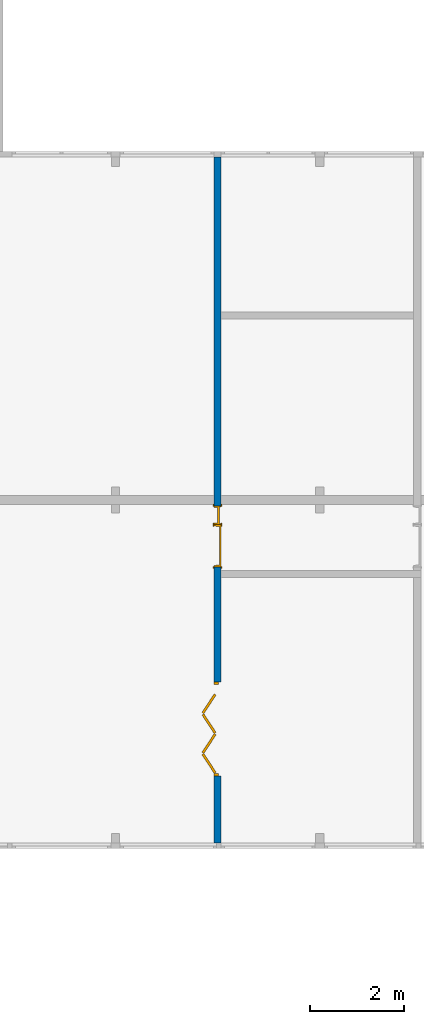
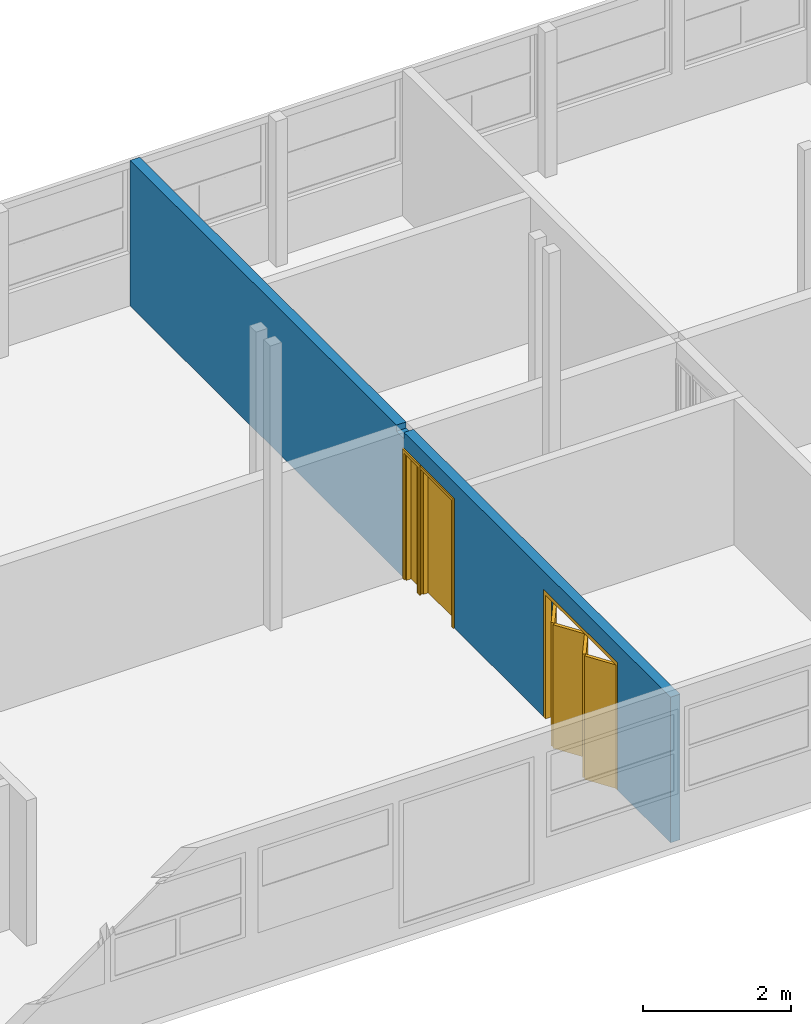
# One storey, part 21 of 48: 3 doors, 1 wall, 3 openings.
"""IFC2X3 building model written with IfcOpenShell, lengths in millimetres."""

from ifc_helpers import new_model, entity, si_unit, converted_unit, derived_unit, money_unit, direction, frame, origin_with_axes, place, context, subcontext, project, spatial, faceted_brep, source, transform, mapped, material, type_object, element, fill, save


model = new_model("IFC2X3")

# Units and contexts
model_context = context("Model", 3, precision=0.01, world=origin_with_axes(), true_north=direction((0.0, 1.0)))
body_context = subcontext(model_context, "Body", "Model", "MODEL_VIEW")
ifc_project = project(units=[si_unit("LENGTHUNIT", "METRE", prefix="MILLI"), si_unit("AREAUNIT", "SQUARE_METRE"), si_unit("VOLUMEUNIT", "CUBIC_METRE"), converted_unit("PLANEANGLEUNIT", "DEGREE", entity("IfcPlaneAngleMeasure", 0.0174532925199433), si_unit("PLANEANGLEUNIT", "RADIAN"), dimensions=[0, 0, 0, 0, 0, 0, 0]), money_unit("USD"), converted_unit("TIMEUNIT", "Year", entity("IfcTimeMeasure", 31557600.0), si_unit("TIMEUNIT", "SECOND"), dimensions=[0, 0, 1, 0, 0, 0, 0]), si_unit("MASSUNIT", "GRAM", prefix="KILO"), si_unit("THERMODYNAMICTEMPERATUREUNIT", "DEGREE_CELSIUS"), si_unit("LUMINOUSINTENSITYUNIT", "LUMEN"), si_unit("ENERGYUNIT", "JOULE", prefix="MEGA"), derived_unit("THERMALCONDUCTANCEUNIT", [(si_unit("POWERUNIT", "WATT"), 1), (si_unit("LENGTHUNIT", "METRE"), -1), (si_unit("THERMODYNAMICTEMPERATUREUNIT", "KELVIN"), -1)]), derived_unit("SPECIFICHEATCAPACITYUNIT", [(si_unit("ENERGYUNIT", "JOULE"), 1), (si_unit("MASSUNIT", "GRAM", prefix="KILO"), -1), (si_unit("THERMODYNAMICTEMPERATUREUNIT", "KELVIN"), -1)]), derived_unit("MASSDENSITYUNIT", [(si_unit("MASSUNIT", "GRAM", prefix="KILO"), 1), (si_unit("VOLUMEUNIT", "CUBIC_METRE"), -1)])], contexts=[model_context])

# Site, building, storey
site_placement = place(None, origin_with_axes())
site = spatial("IfcSite", under=ifc_project, at=site_placement, Name="Site", CompositionType="ELEMENT")
building_placement = place(site_placement, origin_with_axes())
building = spatial("IfcBuilding", under=site, at=building_placement, Name="Building", CompositionType="ELEMENT")
storey_placement = place(building_placement, frame((0.0, 0.0, 3300.0), z_axis=(0.0, 0.0, 1.0), x_axis=(1.0, 0.0, 0.0)))
storey = spatial("IfcBuildingStorey", under=building, at=storey_placement, Name="1 ETG", CompositionType="ELEMENT", Elevation=3300.0)

# Wall, openings, doors
ifc_material = material(Name="GENERIC - INTERNAL FILLER")
wall_type = type_object("IfcWallType", Name="GENERIC - INTERNAL FILLER 150", PredefinedType="NOTDEFINED")
wall_placement = place(storey_placement, frame((47250.00000000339, 7199.830298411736, 0.0), z_axis=(0.0, 0.0, 1.0), x_axis=(0.0, 1.0, 0.0)))
wall = element("IfcWall", 1, at=wall_placement, inside=storey, type_object=wall_type, material=ifc_material, Name="SW - 001", context=body_context, shape_type="Brep", body=[
    faceted_brep([(1426.29042618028, 0.0, 0.0), (1426.29042618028, 0.0, 2100.0), (3426.29042618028, 0.0, 2100.0), (3426.29042618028, 0.0, 0.0), (5875.433155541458, 0.0, 0.0), (5875.433155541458, 0.0, 2100.0), (7175.433155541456, 0.0, 2100.0), (7175.433155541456, 0.0, 0.0), (14600.08709267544, 0.0, 0.0), (14600.08709267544, 0.0, 2400.0), (7400.169701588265, 0.0, 2400.0), (7400.169701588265, 0.0, 2300.000000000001), (7200.169701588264, 0.0, 2300.000000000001), (7200.169701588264, 0.0, 2400.0), (0.0, 0.0, 2400.0), (0.0, 0.0, 0.0), (1426.29042618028, 149.9999999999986, 0.0), (1426.29042618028, 149.9999999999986, 2100.0), (3426.29042618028, 149.9999999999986, 2100.0), (3426.29042618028, 149.9999999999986, 0.0), (5875.433155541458, 149.9999999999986, 0.0), (5875.433155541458, 149.9999999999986, 2100.0), (7175.433155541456, 149.9999999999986, 2100.0), (7175.433155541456, 149.9999999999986, 0.0), (14600.08734315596, 149.9999999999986, 0.0), (14600.08734315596, 149.9999999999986, 2400.0), (7400.169701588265, 149.9999999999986, 2400.0), (7400.169701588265, 149.9999999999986, 2300.000000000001), (7200.169701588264, 149.9999999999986, 2300.000000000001), (7200.169701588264, 149.9999999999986, 2400.0), (-0.0002653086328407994, 149.9999999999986, 2400.0), (-0.0002653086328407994, 149.9999999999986, 0.0)], [[[0, 1, 2, 3, 4, 5, 6, 7, 8, 9, 10, 11, 12, 13, 14, 15]], [[1, 0, 16, 17]], [[2, 1, 17, 18]], [[3, 2, 18, 19]], [[3, 19, 20, 4]], [[20, 21, 5, 4]], [[6, 5, 21, 22]], [[6, 22, 23, 7]], [[23, 24, 8, 7]], [[25, 9, 8, 24]], [[9, 25, 26, 10]], [[26, 27, 11, 10]], [[27, 28, 12, 11]], [[12, 28, 29, 13]], [[30, 14, 13, 29]], [[15, 14, 30, 31]], [[16, 0, 15, 31]], [[17, 16, 31, 30, 29, 28, 27, 26, 25, 24, 23, 22, 21, 20, 19, 18]]]),
])
opening_1_placement = place(wall_placement, frame((6325.433155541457, 0.0, 0.0), z_axis=(0.0, 0.0, 1.0), x_axis=(1.0, 0.0, 0.0)))
opening_1 = element("IfcOpeningElement", 2, at=opening_1_placement, cuts=wall, Name="DOO - 002", context=body_context, shape_type="Brep", body=[
    faceted_brep([(449.9999999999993, -0.9999999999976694, 0.0), (449.9999999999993, -0.9999999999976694, 2100.0), (-449.9999999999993, -0.9999999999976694, 2100.0), (-449.9999999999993, -0.9999999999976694, 0.0), (487.0000000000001, -0.9999999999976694, 0.0), (487.0000000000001, -0.9999999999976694, 2137.0), (-487.0000000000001, -0.9999999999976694, 2137.0), (-487.0000000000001, -0.9999999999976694, 0.0), (449.9999999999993, 0.0, 0.0), (-449.9999999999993, 0.0, 0.0), (-449.9999999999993, 149.9999999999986, 0.0), (-449.9999999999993, 150.9999999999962, 0.0), (449.9999999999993, 150.9999999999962, 0.0), (449.9999999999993, 149.9999999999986, 0.0), (487.0000000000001, 0.0, 0.0), (487.0000000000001, 0.0, 2137.0), (-487.0000000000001, 0.0, 2137.0), (-487.0000000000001, 0.0, 0.0), (-449.9999999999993, 0.0, 2100.0), (-449.9999999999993, 149.9999999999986, 2100.0), (-487.0000000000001, 149.9999999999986, 0.0), (-487.0000000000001, 150.9999999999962, 0.0), (-487.0000000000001, 150.9999999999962, 2137.0), (487.0000000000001, 150.9999999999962, 2137.0), (487.0000000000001, 150.9999999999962, 0.0), (487.0000000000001, 149.9999999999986, 0.0), (449.9999999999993, 0.0, 2100.0), (449.9999999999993, 149.9999999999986, 2100.0), (487.0000000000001, 149.9999999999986, 2137.0), (-487.0000000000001, 149.9999999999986, 2137.0)], [[[0, 1, 2, 3]], [[2, 1, 0, 4, 5, 6, 7, 3]], [[8, 0, 3, 9, 10, 11, 12, 13]], [[0, 8, 14, 4]], [[14, 15, 5, 4]], [[15, 16, 6, 5]], [[16, 17, 7, 6]], [[9, 3, 7, 17]], [[9, 18, 19, 10]], [[11, 10, 20, 21]], [[12, 11, 21, 22, 23, 24]], [[13, 12, 24, 25]], [[26, 8, 13, 27]], [[8, 26, 18, 9, 17, 16, 15, 14]], [[18, 26, 27, 19]], [[19, 27, 13, 25, 28, 29, 20, 10]], [[20, 29, 22, 21]], [[29, 28, 23, 22]], [[28, 25, 24, 23]]]),
])
opening_2_placement = place(wall_placement, frame((6975.433155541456, 0.0, 0.0), z_axis=(0.0, 0.0, 1.0), x_axis=(1.0, 0.0, 0.0)))
opening_2 = element("IfcOpeningElement", 3, at=opening_2_placement, cuts=wall, Name="DOO - 002", context=body_context, shape_type="Brep", body=[
    faceted_brep([(199.9999999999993, 149.9999999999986, 0.0), (199.9999999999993, 149.9999999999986, 2100.0), (199.9999999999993, 0.0, 2100.0), (199.9999999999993, 0.0, 0.0), (-199.9999999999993, 149.9999999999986, 2100.0), (236.9999999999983, 149.9999999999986, 0.0), (236.9999999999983, 149.9999999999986, 2137.0), (-236.9999999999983, 149.9999999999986, 2137.0), (-236.9999999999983, 149.9999999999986, 0.0), (-199.9999999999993, 149.9999999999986, 0.0), (-199.9999999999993, 0.0, 2100.0), (-199.9999999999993, 0.0, 0.0), (-236.9999999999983, 0.0, 0.0), (-236.9999999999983, 0.0, 2137.0), (236.9999999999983, 0.0, 2137.0), (236.9999999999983, 0.0, 0.0), (199.9999999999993, 150.9999999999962, 0.0), (199.9999999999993, -1.000000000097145, 0.0), (-199.9999999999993, -1.000000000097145, 0.0), (-199.9999999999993, 150.9999999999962, 0.0), (236.9999999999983, 150.9999999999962, 0.0), (236.9999999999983, 150.9999999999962, 2137.0), (-236.9999999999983, 150.9999999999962, 2137.0), (-236.9999999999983, 150.9999999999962, 0.0), (-236.9999999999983, -1.000000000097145, 0.0), (-236.9999999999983, -1.000000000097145, 2137.0), (236.9999999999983, -1.000000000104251, 2137.0), (236.9999999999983, -1.000000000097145, 0.0), (199.9999999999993, 150.9999999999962, 2100.0), (-199.9999999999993, 150.9999999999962, 2100.0)], [[[0, 1, 2, 3]], [[4, 1, 0, 5, 6, 7, 8, 9]], [[1, 4, 10, 2]], [[3, 2, 10, 11, 12, 13, 14, 15]], [[16, 0, 3, 17, 18, 11, 9, 19]], [[0, 16, 20, 5]], [[6, 5, 20, 21]], [[7, 6, 21, 22]], [[8, 7, 22, 23]], [[19, 9, 8, 23]], [[4, 9, 11, 10]], [[11, 18, 24, 12]], [[13, 12, 24, 25]], [[14, 13, 25, 26]], [[15, 14, 26, 27]], [[17, 3, 15, 27]], [[17, 27, 26, 25, 24, 18]], [[28, 16, 19, 29]], [[16, 28, 29, 19, 23, 22, 21, 20]]]),
])
opening_3_placement = place(wall_placement, frame((2426.29042618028, 0.0, 0.0), z_axis=(0.0, 0.0, 1.0), x_axis=(1.0, 0.0, 0.0)))
opening_3 = element("IfcOpeningElement", 4, at=opening_3_placement, cuts=wall, Name="DOO - 002", context=body_context, shape_type="Brep", body=[
    faceted_brep([(-1000.0, -0.9999999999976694, 2100.0), (-1000.0, -0.9999999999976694, 0.0), (1000.0, -0.9999999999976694, 0.0), (1000.0, -0.9999999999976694, 2100.0), (-1000.0, 150.9999999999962, 2100.0), (-1000.0, 150.9999999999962, 0.0), (1000.0, 150.9999999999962, 0.0), (1000.0, 150.9999999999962, 2100.0)], [[[0, 1, 2, 3]], [[4, 5, 1, 0]], [[5, 6, 2, 1]], [[6, 7, 3, 2]], [[7, 4, 0, 3]], [[6, 5, 4, 7]]]),
])
door_style_1 = type_object("IfcDoorStyle", Name="Dør", ConstructionType="NOTDEFINED", OperationType="SINGLE_SWING_RIGHT", ParameterTakesPrecedence=False, Sizeable=False)
shared_shape_1 = source(origin_with_axes(), body_context, "Body", "Brep", [
    faceted_brep([(-450.0, -115.0, 0.0), (-425.0, -115.0, 0.0), (-425.0, -150.0, 0.0), (-450.0, -150.0, 0.0), (-450.0, -115.0000000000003, 2100.0), (-425.0, -115.0000000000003, 2075.0), (-425.0, -150.0000000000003, 2075.0), (-450.0, -150.0000000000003, 2100.0)], [[[0, 1, 2, 3]], [[0, 4, 5, 1]], [[1, 5, 6, 2]], [[3, 2, 6, 7]], [[4, 0, 3, 7]], [[5, 4, 7, 6]]]),
    faceted_brep([(450.0, -115.0000000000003, 2100.0), (425.0, -115.0000000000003, 2075.0), (425.0, -150.0000000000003, 2075.0), (450.0, -150.0000000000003, 2100.0), (450.0, -115.0, 0.0), (425.0, -115.0, 0.0), (425.0, -150.0, 0.0), (450.0, -150.0, 0.0)], [[[0, 1, 2, 3]], [[0, 4, 5, 1]], [[1, 5, 6, 2]], [[3, 2, 6, 7]], [[4, 0, 3, 7]], [[5, 4, 7, 6]]]),
    faceted_brep([(-425.0, -115.0000000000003, 2075.0), (425.0, -115.0000000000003, 2075.0), (425.0, -150.0000000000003, 2075.0), (-425.0, -150.0000000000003, 2075.0), (-450.0, -115.0000000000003, 2100.0), (450.0, -115.0000000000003, 2100.0), (450.0, -150.0000000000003, 2100.0), (-450.0, -150.0000000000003, 2100.0)], [[[0, 1, 2, 3]], [[0, 4, 5, 1]], [[1, 5, 6, 2]], [[3, 2, 6, 7]], [[4, 0, 3, 7]], [[5, 4, 7, 6]]]),
    faceted_brep([(-487.0, -169.0, 0.0), (-487.0, -150.0, 0.0), (-437.0, -150.0, 0.0), (-437.0, -169.0, 0.0), (-487.0, -169.0000000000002, 2137.0), (-487.0, -150.0000000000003, 2137.0), (-437.0, -150.0000000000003, 2087.0), (-437.0, -169.0000000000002, 2087.0)], [[[0, 1, 2, 3]], [[4, 5, 1, 0]], [[1, 5, 6, 2]], [[3, 2, 6, 7]], [[0, 3, 7, 4]], [[7, 6, 5, 4]]]),
    faceted_brep([(487.0, -169.0000000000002, 2137.0), (487.0, -150.0000000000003, 2137.0), (437.0, -150.0000000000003, 2087.0), (437.0, -169.0000000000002, 2087.0), (487.0, -169.0, 0.0), (487.0, -150.0, 0.0), (437.0, -150.0, 0.0), (437.0, -169.0, 0.0)], [[[0, 1, 2, 3]], [[4, 5, 1, 0]], [[1, 5, 6, 2]], [[3, 2, 6, 7]], [[0, 3, 7, 4]], [[7, 6, 5, 4]]]),
    faceted_brep([(-487.0, -169.0000000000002, 2137.0), (-487.0, -150.0000000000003, 2137.0), (-437.0, -150.0000000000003, 2087.0), (-437.0, -169.0000000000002, 2087.0), (487.0, -169.0000000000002, 2137.0), (487.0, -150.0000000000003, 2137.0), (437.0, -150.0000000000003, 2087.0), (437.0, -169.0000000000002, 2087.0)], [[[0, 1, 2, 3]], [[4, 5, 1, 0]], [[1, 5, 6, 2]], [[3, 2, 6, 7]], [[0, 3, 7, 4]], [[7, 6, 5, 4]]]),
    faceted_brep([(-487.0, 19.0, 0.0), (-437.0, 19.0, 0.0), (-437.0, 0.0, 0.0), (-487.0, 0.0, 0.0), (-487.0, 18.99999999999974, 2137.0), (-437.0, 18.99999999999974, 2087.0), (-437.0, 0.0, 2087.0), (-487.0, 0.0, 2137.0)], [[[0, 1, 2, 3]], [[0, 4, 5, 1]], [[1, 5, 6, 2]], [[3, 2, 6, 7]], [[4, 0, 3, 7]], [[5, 4, 7, 6]]]),
    faceted_brep([(487.0, 18.99999999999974, 2137.0), (437.0, 18.99999999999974, 2087.0), (437.0, 0.0, 2087.0), (487.0, 0.0, 2137.0), (487.0, 19.0, 0.0), (437.0, 19.0, 0.0), (437.0, 0.0, 0.0), (487.0, 0.0, 0.0)], [[[0, 1, 2, 3]], [[0, 4, 5, 1]], [[1, 5, 6, 2]], [[3, 2, 6, 7]], [[4, 0, 3, 7]], [[5, 4, 7, 6]]]),
    faceted_brep([(-487.0, 18.99999999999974, 2137.0), (-437.0, 18.99999999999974, 2087.0), (-437.0, 0.0, 2087.0), (-487.0, 0.0, 2137.0), (487.0, 18.99999999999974, 2137.0), (437.0, 18.99999999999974, 2087.0), (437.0, 0.0, 2087.0), (487.0, 0.0, 2137.0)], [[[0, 1, 2, 3]], [[0, 4, 5, 1]], [[1, 5, 6, 2]], [[3, 2, 6, 7]], [[4, 0, 3, 7]], [[5, 4, 7, 6]]]),
    faceted_brep([(-450.0, 0.0, 0.0), (-410.0000000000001, 0.0, 0.0), (-410.0000000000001, -115.0, 0.0), (-450.0, -115.0, 0.0), (-450.0, 0.0, 2060.0), (-410.0000000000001, 0.0, 2060.0), (-410.0000000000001, -115.0, 2060.0), (-450.0, -115.0, 2060.0)], [[[0, 1, 2, 3]], [[0, 4, 5, 1]], [[1, 5, 6, 2]], [[3, 2, 6, 7]], [[4, 0, 3, 7]], [[5, 4, 7, 6]]]),
    faceted_brep([(450.0, 0.0, 0.0), (450.0, 0.0, 2060.0), (450.0, -115.0, 2060.0), (450.0, -115.0, 0.0), (410.0000000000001, 0.0, 0.0), (410.0000000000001, 0.0, 2060.0), (410.0000000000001, -115.0, 2060.0), (410.0000000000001, -115.0, 0.0)], [[[0, 1, 2, 3]], [[0, 4, 5, 1]], [[1, 5, 6, 2]], [[3, 2, 6, 7]], [[4, 0, 3, 7]], [[5, 4, 7, 6]]]),
    faceted_brep([(-450.0, 0.0, 2100.0), (-450.0, 0.0, 2060.0), (-450.0, -115.0, 2060.0), (-450.0, -115.0, 2100.0), (450.0, 0.0, 2100.0), (450.0, 0.0, 2060.0), (410.0000000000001, 0.0, 2060.0), (-410.0000000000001, 0.0, 2060.0), (-410.0000000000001, -115.0, 2060.0), (410.0000000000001, -115.0, 2060.0), (450.0, -115.0, 2060.0), (450.0, -115.0, 2100.0)], [[[0, 1, 2, 3]], [[0, 4, 5, 6, 7, 1]], [[1, 7, 8, 2]], [[3, 2, 8, 9, 10, 11]], [[4, 0, 3, 11]], [[5, 4, 11, 10]], [[6, 5, 10, 9]], [[7, 6, 9, 8]]]),
    faceted_brep([(409.9999999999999, 0.0, 0.0), (409.9999999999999, -40.0, 0.0), (-410.0000000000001, -40.0, 0.0), (-410.0000000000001, 0.0, 0.0), (409.9999999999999, 0.0, 2060.0), (409.9999999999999, -40.00000000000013, 2060.0), (-410.0000000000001, -40.00000000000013, 2060.0), (-410.0000000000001, 0.0, 2060.0)], [[[0, 1, 2, 3]], [[4, 5, 1, 0]], [[1, 5, 6, 2]], [[3, 2, 6, 7]], [[0, 3, 7, 4]], [[7, 6, 5, 4]]]),
])
door_1_placement = place(opening_1_placement, frame((449.9999999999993, 0.0, 0.0), z_axis=(0.0, 0.0, 1.0), x_axis=(-1.0, 0.0, 0.0)))
door_1 = element("IfcDoor", 5, at=door_1_placement, inside=storey, type_object=door_style_1, Name="DOO - 002", ObjectType="DOOR", OverallHeight=2100.0, OverallWidth=900.0, context=body_context, shape_type="MappedRepresentation", body=[
    mapped(shared_shape_1, transform((449.9999999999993, 0.0, 0.0))),
])
fill(opening_1, door_1)
door_style_2 = type_object("IfcDoorStyle", Name="Foldedør multipanel", ConstructionType="NOTDEFINED", OperationType="FOLDING_TO_RIGHT", ParameterTakesPrecedence=False, Sizeable=False)
shared_shape_2 = source(origin_with_axes(), body_context, "Body", "Brep", [
    faceted_brep([(-1000.0, 0.0, 0.0), (-947.0, 0.0, 0.0), (-947.0, -92.0, 0.0), (-1000.0, -92.0, 0.0), (-1000.0, 0.0, 2037.0), (-947.0, 0.0, 2037.0), (-947.0, -92.0, 2037.0), (-1000.0, -92.0, 2037.0)], [[[0, 1, 2, 3]], [[0, 4, 5, 1]], [[1, 5, 6, 2]], [[3, 2, 6, 7]], [[4, 0, 3, 7]], [[5, 4, 7, 6]]]),
    faceted_brep([(1000.0, 0.0, 0.0), (1000.0, 0.0, 2037.0), (1000.0, -92.0, 2037.0), (1000.0, -92.0, 0.0), (947.0, 0.0, 0.0), (947.0, 0.0, 2037.0), (947.0, -92.0, 2037.0), (947.0, -92.0, 0.0)], [[[0, 1, 2, 3]], [[0, 4, 5, 1]], [[1, 5, 6, 2]], [[3, 2, 6, 7]], [[4, 0, 3, 7]], [[5, 4, 7, 6]]]),
    faceted_brep([(-1000.0, 0.0, 2100.0), (-1000.0, 0.0, 2037.0), (-1000.0, -92.0, 2037.0), (-1000.0, -92.0, 2100.0), (1000.0, 0.0, 2100.0), (1000.0, 0.0, 2037.0), (947.0, 0.0, 2037.0), (-947.0, 0.0, 2037.0), (-947.0, -92.0, 2037.0), (947.0, -92.0, 2037.0), (1000.0, -92.0, 2037.0), (1000.0, -92.0, 2100.0)], [[[0, 1, 2, 3]], [[0, 4, 5, 6, 7, 1]], [[1, 7, 8, 2]], [[3, 2, 8, 9, 10, 11]], [[4, 0, 3, 11]], [[5, 4, 11, 10]], [[6, 5, 10, 9]], [[7, 6, 9, 8]]]),
    faceted_brep([(-947.0, 0.0, 0.0), (-550.8947129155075, 259.427931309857, 0.0), (-523.5, 217.6005514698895, 0.0), (-919.6052870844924, -41.82737983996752, 0.0), (-946.9999999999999, 0.0, 2037.0), (-550.8947129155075, 259.4279313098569, 2037.0), (-523.4999999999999, 217.6005514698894, 2037.0), (-919.6052870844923, -41.82737983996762, 2037.0)], [[[0, 1, 2, 3]], [[0, 4, 5, 1]], [[1, 5, 6, 2]], [[3, 2, 6, 7]], [[4, 0, 3, 7]], [[5, 4, 7, 6]]]),
    faceted_brep([(-496.1052870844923, 259.427931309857, 0.0), (-99.99999999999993, 0.0, 0.0), (-127.3947129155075, -41.82737983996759, 0.0), (-523.4999999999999, 217.6005514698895, 0.0), (-496.1052870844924, 259.4279313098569, 2037.0), (-99.99999999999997, 0.0, 2037.0), (-127.3947129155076, -41.82737983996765, 2037.0), (-523.5, 217.6005514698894, 2037.0)], [[[0, 1, 2, 3]], [[0, 4, 5, 1]], [[1, 5, 6, 2]], [[3, 2, 6, 7]], [[4, 0, 3, 7]], [[5, 4, 7, 6]]]),
    faceted_brep([(-99.9999999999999, 0.0, 0.0), (296.1052870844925, 259.4279313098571, 0.0), (323.5000000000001, 217.6005514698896, 0.0), (-72.60528708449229, -41.82737983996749, 0.0), (-99.99999999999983, 0.0, 2037.0), (296.1052870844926, 259.427931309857, 2037.0), (323.5000000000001, 217.6005514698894, 2037.0), (-72.60528708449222, -41.82737983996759, 2037.0)], [[[0, 1, 2, 3]], [[0, 4, 5, 1]], [[1, 5, 6, 2]], [[3, 2, 6, 7]], [[4, 0, 3, 7]], [[5, 4, 7, 6]]]),
    faceted_brep([(350.8947129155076, 259.4279313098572, 0.0), (746.9999999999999, 0.0, 0.0), (719.6052870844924, -41.82737983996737, 0.0), (323.4999999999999, 217.6005514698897, 0.0), (350.8947129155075, 259.4279313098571, 2037.0), (746.9999999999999, 0.0, 2037.0), (719.6052870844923, -41.82737983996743, 2037.0), (323.4999999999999, 217.6005514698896, 2037.0)], [[[0, 1, 2, 3]], [[0, 4, 5, 1]], [[1, 5, 6, 2]], [[3, 2, 6, 7]], [[4, 0, 3, 7]], [[5, 4, 7, 6]]]),
])
door_2_placement = place(opening_3_placement, frame((-1000.0, 0.0, 0.0), z_axis=(0.0, 0.0, 1.0), x_axis=(1.0, 0.0, 0.0)))
door_2 = element("IfcDoor", 6, at=door_2_placement, inside=storey, type_object=door_style_2, Name="DOO - 002", ObjectType="DOOR", OverallHeight=2100.0, OverallWidth=2000.0, context=body_context, shape_type="MappedRepresentation", body=[
    mapped(shared_shape_2, transform((1000.0, 149.9999999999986, 0.0))),
])
fill(opening_3, door_2)
door_style_3 = type_object("IfcDoorStyle", Name="Dør", ConstructionType="NOTDEFINED", OperationType="SINGLE_SWING_LEFT", ParameterTakesPrecedence=False, Sizeable=False)
door_3_placement = place(opening_2_placement, frame((199.9999999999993, 0.0, 0.0), z_axis=(0.0, 0.0, 1.0), x_axis=(-1.0, 0.0, 0.0)))
door_3 = element("IfcDoor", 7, at=door_3_placement, inside=storey, type_object=door_style_3, Name="DOO - 002", ObjectType="DOOR", OverallHeight=2100.0, OverallWidth=400.0, context=body_context, shape_type="Brep", body=[
    faceted_brep([(399.9999999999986, -34.99999999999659, 0.0), (374.9999999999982, -34.99999999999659, 0.0), (374.9999999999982, 0.0, 0.0), (399.9999999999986, 0.0, 0.0), (399.9999999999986, -34.99999999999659, 2100.0), (374.9999999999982, -34.99999999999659, 2075.0), (374.9999999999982, 0.0, 2075.0), (399.9999999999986, 0.0, 2100.0)], [[[0, 1, 2, 3]], [[0, 4, 5, 1]], [[1, 5, 6, 2]], [[3, 2, 6, 7]], [[4, 0, 3, 7]], [[5, 4, 7, 6]]]),
    faceted_brep([(0.0, -34.99999999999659, 2100.0), (25.00000000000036, -34.99999999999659, 2075.0), (25.00000000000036, 0.0, 2075.0), (0.0, 0.0, 2100.0), (0.0, -34.99999999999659, 0.0), (25.00000000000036, -34.99999999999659, 0.0), (25.00000000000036, 0.0, 0.0), (0.0, 0.0, 0.0)], [[[0, 1, 2, 3]], [[0, 4, 5, 1]], [[1, 5, 6, 2]], [[3, 2, 6, 7]], [[4, 0, 3, 7]], [[5, 4, 7, 6]]]),
    faceted_brep([(374.9999999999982, -34.99999999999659, 2075.0), (25.00000000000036, -34.99999999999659, 2075.0), (25.00000000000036, 0.0, 2075.0), (374.9999999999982, 0.0, 2075.0), (399.9999999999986, -34.99999999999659, 2100.0), (0.0, -34.99999999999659, 2100.0), (0.0, 0.0, 2100.0), (399.9999999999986, 0.0, 2100.0)], [[[0, 1, 2, 3]], [[0, 4, 5, 1]], [[1, 5, 6, 2]], [[3, 2, 6, 7]], [[4, 0, 3, 7]], [[5, 4, 7, 6]]]),
    faceted_brep([(436.9999999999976, 19.00000000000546, 0.0), (436.9999999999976, 0.0, 0.0), (386.9999999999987, 0.0, 0.0), (386.9999999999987, 19.00000000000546, 0.0), (436.9999999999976, 19.00000000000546, 2137.0), (436.9999999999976, 0.0, 2137.0), (386.9999999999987, 0.0, 2087.0), (386.9999999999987, 19.00000000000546, 2087.0)], [[[0, 1, 2, 3]], [[4, 5, 1, 0]], [[1, 5, 6, 2]], [[3, 2, 6, 7]], [[0, 3, 7, 4]], [[7, 6, 5, 4]]]),
    faceted_brep([(-36.99999999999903, 19.00000000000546, 2137.0), (-36.99999999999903, 0.0, 2137.0), (12.9999999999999, 0.0, 2087.0), (12.9999999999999, 19.00000000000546, 2087.0), (-36.99999999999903, 19.00000000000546, 0.0), (-36.99999999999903, 0.0, 0.0), (12.9999999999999, 0.0, 0.0), (12.9999999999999, 19.00000000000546, 0.0)], [[[0, 1, 2, 3]], [[4, 5, 1, 0]], [[1, 5, 6, 2]], [[3, 2, 6, 7]], [[0, 3, 7, 4]], [[7, 6, 5, 4]]]),
    faceted_brep([(436.9999999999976, 19.00000000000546, 2137.0), (436.9999999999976, 0.0, 2137.0), (386.9999999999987, 0.0, 2087.0), (386.9999999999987, 19.00000000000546, 2087.0), (-36.99999999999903, 19.00000000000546, 2137.0), (-36.99999999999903, 0.0, 2137.0), (12.9999999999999, 0.0, 2087.0), (12.9999999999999, 19.00000000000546, 2087.0)], [[[0, 1, 2, 3]], [[4, 5, 1, 0]], [[1, 5, 6, 2]], [[3, 2, 6, 7]], [[0, 3, 7, 4]], [[7, 6, 5, 4]]]),
    faceted_brep([(436.9999999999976, -168.9999999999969, 0.0), (386.9999999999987, -168.9999999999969, 0.0), (386.9999999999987, -149.9999999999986, 0.0), (436.9999999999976, -149.9999999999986, 0.0), (436.9999999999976, -168.9999999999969, 2137.0), (386.9999999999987, -168.9999999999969, 2087.0), (386.9999999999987, -149.9999999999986, 2087.0), (436.9999999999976, -149.9999999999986, 2137.0)], [[[0, 1, 2, 3]], [[0, 4, 5, 1]], [[1, 5, 6, 2]], [[3, 2, 6, 7]], [[4, 0, 3, 7]], [[5, 4, 7, 6]]]),
    faceted_brep([(-36.99999999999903, -168.9999999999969, 2137.0), (12.9999999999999, -168.9999999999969, 2087.0), (12.9999999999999, -149.9999999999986, 2087.0), (-36.99999999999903, -149.9999999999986, 2137.0), (-36.99999999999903, -168.9999999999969, 0.0), (12.9999999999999, -168.9999999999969, 0.0), (12.9999999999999, -149.9999999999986, 0.0), (-36.99999999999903, -149.9999999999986, 0.0)], [[[0, 1, 2, 3]], [[0, 4, 5, 1]], [[1, 5, 6, 2]], [[3, 2, 6, 7]], [[4, 0, 3, 7]], [[5, 4, 7, 6]]]),
    faceted_brep([(436.9999999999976, -168.9999999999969, 2137.0), (386.9999999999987, -168.9999999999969, 2087.0), (386.9999999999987, -149.9999999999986, 2087.0), (436.9999999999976, -149.9999999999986, 2137.0), (-36.99999999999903, -168.9999999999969, 2137.0), (12.9999999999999, -168.9999999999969, 2087.0), (12.9999999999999, -149.9999999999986, 2087.0), (-36.99999999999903, -149.9999999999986, 2137.0)], [[[0, 1, 2, 3]], [[0, 4, 5, 1]], [[1, 5, 6, 2]], [[3, 2, 6, 7]], [[4, 0, 3, 7]], [[5, 4, 7, 6]]]),
    faceted_brep([(399.9999999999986, -34.99999999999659, 0.0), (399.9999999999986, -149.9999999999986, 0.0), (359.9999999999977, -149.9999999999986, 0.0), (359.9999999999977, -34.99999999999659, 0.0), (399.9999999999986, -34.99999999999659, 2060.0), (399.9999999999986, -149.9999999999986, 2060.0), (359.9999999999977, -149.9999999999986, 2060.0), (359.9999999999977, -34.99999999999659, 2060.0)], [[[0, 1, 2, 3]], [[4, 5, 1, 0]], [[1, 5, 6, 2]], [[3, 2, 6, 7]], [[0, 3, 7, 4]], [[7, 6, 5, 4]]]),
    faceted_brep([(0.0, -34.99999999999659, 0.0), (0.0, -149.9999999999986, 0.0), (0.0, -149.9999999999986, 2060.0), (0.0, -34.99999999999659, 2060.0), (40.00000000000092, -34.99999999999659, 0.0), (40.00000000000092, -149.9999999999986, 0.0), (40.00000000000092, -149.9999999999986, 2060.0), (40.00000000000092, -34.99999999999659, 2060.0)], [[[0, 1, 2, 3]], [[4, 5, 1, 0]], [[1, 5, 6, 2]], [[3, 2, 6, 7]], [[0, 3, 7, 4]], [[7, 6, 5, 4]]]),
    faceted_brep([(399.9999999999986, -34.99999999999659, 2100.0), (399.9999999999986, -149.9999999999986, 2100.0), (399.9999999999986, -149.9999999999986, 2060.0), (399.9999999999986, -34.99999999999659, 2060.0), (0.0, -34.99999999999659, 2100.0), (0.0, -149.9999999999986, 2100.0), (0.0, -149.9999999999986, 2060.0), (40.00000000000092, -149.9999999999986, 2060.0), (359.9999999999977, -149.9999999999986, 2060.0), (359.9999999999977, -34.99999999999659, 2060.0), (40.00000000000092, -34.99999999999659, 2060.0), (0.0, -34.99999999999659, 2060.0)], [[[0, 1, 2, 3]], [[4, 5, 1, 0]], [[1, 5, 6, 7, 8, 2]], [[3, 2, 8, 9]], [[0, 3, 9, 10, 11, 4]], [[11, 6, 5, 4]], [[10, 7, 6, 11]], [[9, 8, 7, 10]]]),
    faceted_brep([(40.00000000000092, -34.99999999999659, 0.0), (359.9999999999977, -34.99999999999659, 0.0), (359.9999999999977, -74.99999999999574, 0.0), (40.00000000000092, -74.99999999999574, 0.0), (40.00000000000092, -34.99999999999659, 2060.0), (359.9999999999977, -34.99999999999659, 2060.0), (359.9999999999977, -74.99999999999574, 2060.0), (40.00000000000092, -74.99999999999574, 2060.0)], [[[0, 1, 2, 3]], [[0, 4, 5, 1]], [[1, 5, 6, 2]], [[3, 2, 6, 7]], [[4, 0, 3, 7]], [[5, 4, 7, 6]]]),
])
fill(opening_2, door_3)

save(model, "model.ifc")
